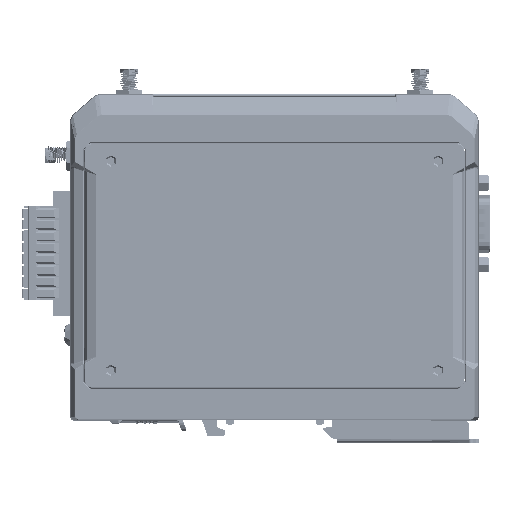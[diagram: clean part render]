
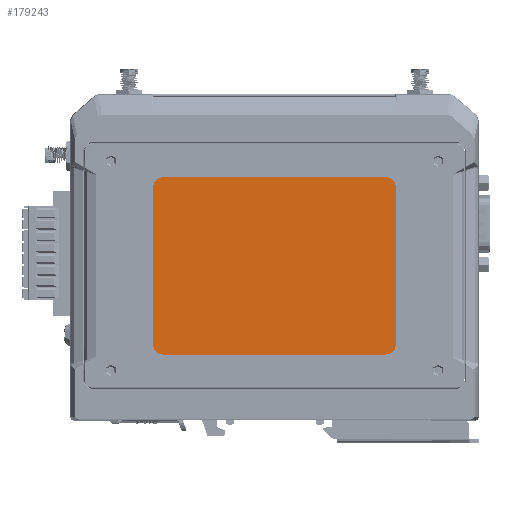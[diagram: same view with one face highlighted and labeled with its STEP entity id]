
A CAD part, left-side view. The second image highlights one B-rep face of the part: STEP entity #179243.
In plain terms, the highlighted planar face has unit normal (-1, 0, 0).
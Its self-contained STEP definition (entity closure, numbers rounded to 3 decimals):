
#37288=CARTESIAN_POINT('',(1.4,96.65,-28.35));
#37289=DIRECTION('',(-1.,0.,0.));
#37290=DIRECTION('',(0.,0.,1.));
#37291=AXIS2_PLACEMENT_3D('',#37288,#37289,#37290);
#37293=CARTESIAN_POINT('',(1.4,28.35,-28.35));
#37294=DIRECTION('',(-1.,0.,0.));
#37295=DIRECTION('',(0.,-1.,0.));
#37296=AXIS2_PLACEMENT_3D('',#37293,#37294,#37295);
#37298=CARTESIAN_POINT('',(1.4,28.35,-76.65));
#37299=DIRECTION('',(-1.,0.,0.));
#37300=DIRECTION('',(0.,0.,-1.));
#37301=AXIS2_PLACEMENT_3D('',#37298,#37299,#37300);
#37303=CARTESIAN_POINT('',(1.4,96.65,-76.65));
#37304=DIRECTION('',(-1.,0.,0.));
#37305=DIRECTION('',(0.,1.,0.));
#37306=AXIS2_PLACEMENT_3D('',#37303,#37304,#37305);
#37308=DIRECTION('',(0.,0.,-1.));
#37309=VECTOR('',#37308,48.3);
#37310=CARTESIAN_POINT('',(1.4,99.65,-28.35));
#37311=LINE('',#37310,#37309);
#37316=DIRECTION('',(0.,1.,0.));
#37317=VECTOR('',#37316,68.3);
#37318=CARTESIAN_POINT('',(1.4,28.35,-25.35));
#37319=LINE('',#37318,#37317);
#37332=DIRECTION('',(0.,0.,1.));
#37333=VECTOR('',#37332,48.3);
#37334=CARTESIAN_POINT('',(1.4,25.35,-76.65));
#37335=LINE('',#37334,#37333);
#37344=DIRECTION('',(0.,-1.,0.));
#37345=VECTOR('',#37344,68.3);
#37346=CARTESIAN_POINT('',(1.4,96.65,-79.65));
#37347=LINE('',#37346,#37345);
#103223=CARTESIAN_POINT('',(1.4,99.65,-28.35));
#103224=VERTEX_POINT('',#103223);
#103225=CARTESIAN_POINT('',(1.4,99.65,-76.65));
#103226=VERTEX_POINT('',#103225);
#103227=CARTESIAN_POINT('',(1.4,96.65,-25.35));
#103228=VERTEX_POINT('',#103227);
#103229=CARTESIAN_POINT('',(1.4,28.35,-25.35));
#103230=VERTEX_POINT('',#103229);
#103231=CARTESIAN_POINT('',(1.4,25.35,-28.35));
#103232=VERTEX_POINT('',#103231);
#103233=CARTESIAN_POINT('',(1.4,25.35,-76.65));
#103234=VERTEX_POINT('',#103233);
#103235=CARTESIAN_POINT('',(1.4,28.35,-79.65));
#103236=VERTEX_POINT('',#103235);
#103237=CARTESIAN_POINT('',(1.4,96.65,-79.65));
#103238=VERTEX_POINT('',#103237);
#179222=CARTESIAN_POINT('',(1.4,62.5,-52.5));
#179223=DIRECTION('',(1.,0.,0.));
#179224=DIRECTION('',(0.,0.,1.));
#179225=AXIS2_PLACEMENT_3D('',#179222,#179223,#179224);
#179226=PLANE('',#179225);
#179227=ORIENTED_EDGE('',*,*,#179206,.F.);
#179229=ORIENTED_EDGE('',*,*,#179228,.F.);
#179231=ORIENTED_EDGE('',*,*,#179230,.F.);
#179233=ORIENTED_EDGE('',*,*,#179232,.F.);
#179235=ORIENTED_EDGE('',*,*,#179234,.F.);
#179237=ORIENTED_EDGE('',*,*,#179236,.F.);
#179239=ORIENTED_EDGE('',*,*,#179238,.F.);
#179240=ORIENTED_EDGE('',*,*,#179186,.F.);
#179241=EDGE_LOOP('',(#179227,#179229,#179231,#179233,#179235,#179237,#179239,
#179240));
#179242=FACE_OUTER_BOUND('',#179241,.F.);
#37292=CIRCLE('',#37291,3.);
#37297=CIRCLE('',#37296,3.);
#37302=CIRCLE('',#37301,3.);
#37307=CIRCLE('',#37306,3.);
#179186=EDGE_CURVE('',#103224,#103226,#37311,.T.);
#179206=EDGE_CURVE('',#103228,#103224,#37292,.T.);
#179228=EDGE_CURVE('',#103230,#103228,#37319,.T.);
#179230=EDGE_CURVE('',#103232,#103230,#37297,.T.);
#179232=EDGE_CURVE('',#103234,#103232,#37335,.T.);
#179234=EDGE_CURVE('',#103236,#103234,#37302,.T.);
#179236=EDGE_CURVE('',#103238,#103236,#37347,.T.);
#179238=EDGE_CURVE('',#103226,#103238,#37307,.T.);
#179243=ADVANCED_FACE('',(#179242),#179226,.F.);
